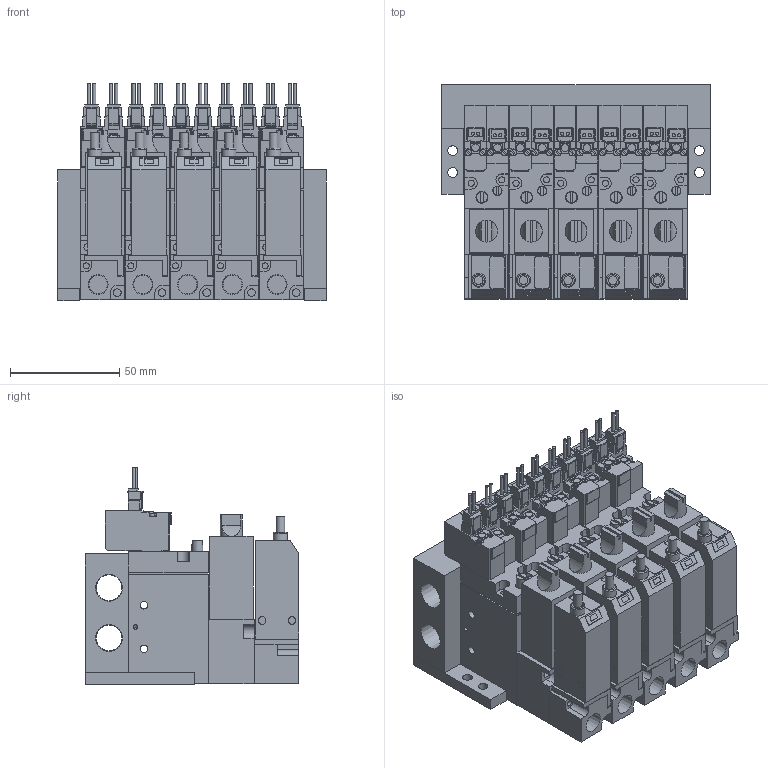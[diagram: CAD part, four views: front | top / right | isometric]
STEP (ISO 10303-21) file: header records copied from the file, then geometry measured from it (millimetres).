
FILE_DESCRIPTION(('STEP AP203'),'1');
FILE_NAME('BMPV32M2NAB25AL505.stp','2025-06-17T00:11:41',(' '),(' '),'Spatial InterOp 3D',' ',' ');
FILE_SCHEMA(('CONFIG_CONTROL_DESIGN'));
Length unit declared in the file: millimetre
Products named in the file (64): BMPV32M2NAB25AL505; Filter Assy; __; _____; MB BRACKET; MB05; Pressure sensor ABSL; ___ ___2; ___-2(Rc); ___; upper plate-A; ______; ____; VACUUM VALVE FUNCTION MPV42-A; UV280-4E
Assembly tree (63 placements, depth 2):
  BMPV32M2NAB25AL505
    Filter Assy
    __
    _____
    Filter Assy
    __
    _____
    Filter Assy
    __
    _____
    Filter Assy
    __
    _____
    MB BRACKET
    MB BRACKET
    MB05
    Filter Assy
    __
    _____
    Pressure sensor ABSL
    ___ ___2
    ___-2(Rc)
    ___-2(Rc)
    ___ ___2
    Pressure sensor ABSL
    ___-2(Rc)
    ___ ___2
    Pressure sensor ABSL
    ___-2(Rc)
    ___ ___2
    Pressure sensor ABSL
    ___-2(Rc)
    ___ ___2
    Pressure sensor ABSL
    ___
    upper plate-A
    ______
    ____
    VACUUM VALVE FUNCTION MPV42-A
    ___
    upper plate-A
    ______
    ____
    VACUUM VALVE FUNCTION MPV42-A
    ___
    upper plate-A
    ______
    ____
    VACUUM VALVE FUNCTION MPV42-A
    ___
    upper plate-A
    ______
    ____
    VACUUM VALVE FUNCTION MPV42-A
    ___
    upper plate-A
    ______
    ____
    VACUUM VALVE FUNCTION MPV42-A
    UV280-4E
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Bounding box: 123 x 98 x 99.75 mm (x, y, z)
Volume: 604365.3 mm3; surface area: 199635.3 mm2
Topology: 63 solids, 63 shells, 1987 faces, 5155 edges, 3414 vertices
Faces by surface type: plane 1591, cylinder 353, cone 38, torus 5
Full cylindrical faces by diameter (mm): 1.4 x20, 1.8 x10, 2 x10, 2.5 x14, 2.8 x20, 3 x20, 3.5 x64, 4 x10, 4.2 x5, 4.5 x4, 5 x5, 5.5 x5, 6.5 x11, 8.522 x5, 11.776 x2
Entity records: 62150 total; most frequent: CARTESIAN_POINT 10608, DIRECTION 9780, ORIENTED_EDGE 9646, EDGE_CURVE 4823, LINE 3928, VECTOR 3928, VERTEX_POINT 3364, AXIS2_PLACEMENT_3D 2926
